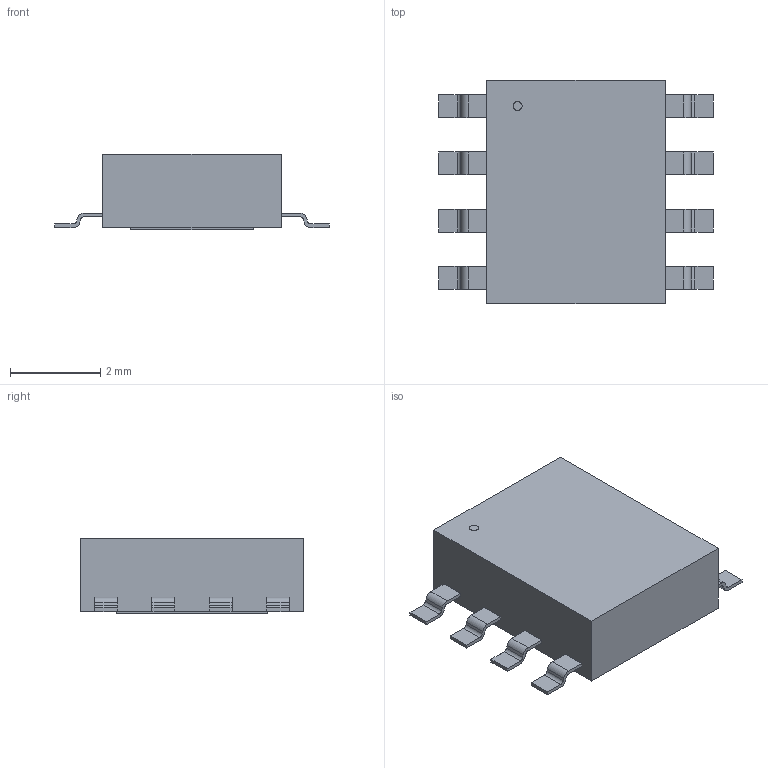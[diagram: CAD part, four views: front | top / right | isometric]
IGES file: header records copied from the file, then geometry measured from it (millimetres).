
Global section: file name: Filename.iges; native system: Open CASCADE 7.7; preprocessor: Open CASCADE IGES processor 7.7; author: SYSTEM; date: 20240110.141004; units: millimetre
Bounding box: 6.1 x 4.95 x 1.68 mm (x, y, z)
Surface area: 99 mm2 (no closed solid volume)
Topology: 0 solids, 0 shells, 127 faces, 630 edges, 628 vertices
Faces by surface type: plane 94, revolution 33
